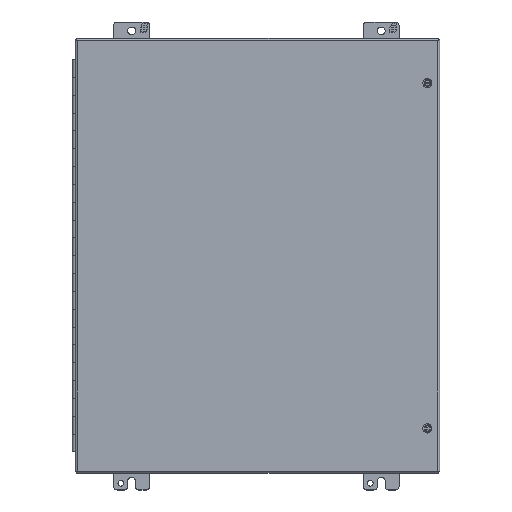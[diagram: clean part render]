
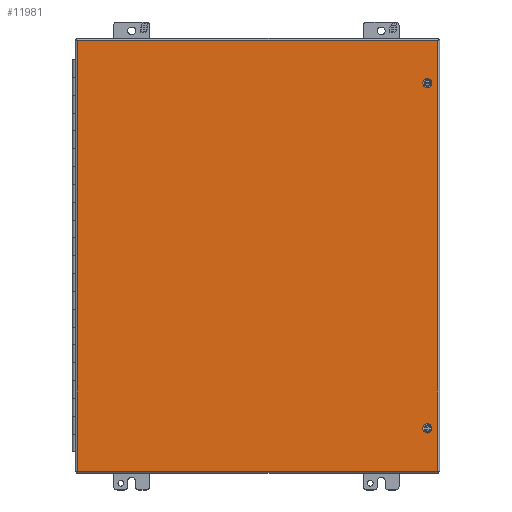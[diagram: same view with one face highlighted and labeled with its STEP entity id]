
A CAD part, top view. The second image highlights one B-rep face of the part: STEP entity #11981.
In plain terms, the highlighted planar face has unit normal (0, 0, 1) as drawn and (0, -1, 0) by its records, which use the part's own axes.
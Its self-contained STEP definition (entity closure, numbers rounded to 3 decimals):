
#824=LINE('',#18294,#2032);
#825=LINE('',#18297,#2033);
#826=LINE('',#18299,#2034);
#827=LINE('',#18301,#2035);
#2032=VECTOR('',#14947,1000.);
#2033=VECTOR('',#14948,1000.);
#2034=VECTOR('',#14949,1000.);
#2035=VECTOR('',#14950,1000.);
#3147=PLANE('',#12935);
#4763=ORIENTED_EDGE('',*,*,#7510,.F.);
#4764=ORIENTED_EDGE('',*,*,#7511,.F.);
#4765=ORIENTED_EDGE('',*,*,#7512,.T.);
#4766=ORIENTED_EDGE('',*,*,#7513,.T.);
#4767=ORIENTED_EDGE('',*,*,#7514,.T.);
#4768=ORIENTED_EDGE('',*,*,#7515,.T.);
#7510=EDGE_CURVE('',#8991,#8991,#9822,.T.);
#7511=EDGE_CURVE('',#8992,#8992,#9823,.T.);
#7512=EDGE_CURVE('',#8993,#8994,#824,.T.);
#7513=EDGE_CURVE('',#8994,#8995,#825,.T.);
#7514=EDGE_CURVE('',#8995,#8996,#826,.T.);
#7515=EDGE_CURVE('',#8996,#8993,#827,.T.);
#8991=VERTEX_POINT('',#18291);
#8992=VERTEX_POINT('',#18293);
#8993=VERTEX_POINT('',#18295);
#8994=VERTEX_POINT('',#18296);
#8995=VERTEX_POINT('',#18298);
#8996=VERTEX_POINT('',#18300);
#9822=CIRCLE('',#12936,3.378);
#9823=CIRCLE('',#12937,3.378);
#10303=EDGE_LOOP('',(#4763));
#10304=EDGE_LOOP('',(#4764));
#10305=EDGE_LOOP('',(#4765,#4766,#4767,#4768));
#11083=FACE_BOUND('',#10303,.T.);
#11084=FACE_BOUND('',#10304,.T.);
#11085=FACE_BOUND('',#10305,.T.);
#11981=ADVANCED_FACE('',(#11083,#11084,#11085),#3147,.T.);
#12935=AXIS2_PLACEMENT_3D('',#18289,#14941,#14942);
#12936=AXIS2_PLACEMENT_3D('',#18290,#14943,#14944);
#12937=AXIS2_PLACEMENT_3D('',#18292,#14945,#14946);
#14941=DIRECTION('',(0.,-1.,0.));
#14942=DIRECTION('',(0.,0.,-1.));
#14943=DIRECTION('',(0.,-1.,0.));
#14944=DIRECTION('',(1.,0.,0.));
#14945=DIRECTION('',(0.,-1.,0.));
#14946=DIRECTION('',(1.,0.,0.));
#14947=DIRECTION('',(0.,0.,-1.));
#14948=DIRECTION('',(1.,0.,0.));
#14949=DIRECTION('',(0.,0.,1.));
#14950=DIRECTION('',(-1.,0.,0.));
#18289=CARTESIAN_POINT('',(-256.819,0.,-306.819));
#18290=CARTESIAN_POINT('',(242.087,0.,-246.037));
#18291=CARTESIAN_POINT('',(245.466,0.,-246.037));
#18292=CARTESIAN_POINT('',(242.087,0.,246.037));
#18293=CARTESIAN_POINT('',(245.466,0.,246.037));
#18294=CARTESIAN_POINT('',(-256.819,0.,306.819));
#18295=CARTESIAN_POINT('',(-256.819,0.,306.819));
#18296=CARTESIAN_POINT('',(-256.819,0.,-306.819));
#18297=CARTESIAN_POINT('',(-256.819,0.,-306.819));
#18298=CARTESIAN_POINT('',(256.819,0.,-306.819));
#18299=CARTESIAN_POINT('',(256.819,0.,-306.819));
#18300=CARTESIAN_POINT('',(256.819,0.,306.819));
#18301=CARTESIAN_POINT('',(256.819,0.,306.819));
